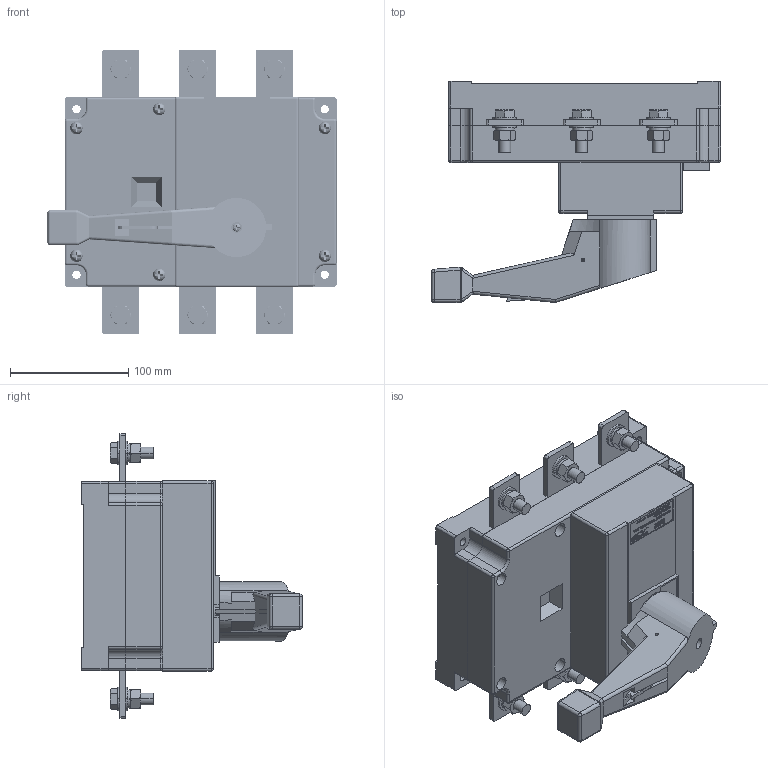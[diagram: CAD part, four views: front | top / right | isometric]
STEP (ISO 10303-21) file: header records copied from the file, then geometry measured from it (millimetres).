
FILE_DESCRIPTION((''),'2;1');
FILE_NAME('2TZD_504_1005_ASM','2016-08-17T',('Administrator'),(''),'PRO/ENGINEER BY PARAMETRIC TECHNOLOGY CORPORATION, 2013050','PRO/ENGINEER BY PARAMETRIC TECHNOLOGY CORPORATION, 2013050','');
FILE_SCHEMA(('CONFIG_CONTROL_DESIGN'));
Products named in the file (35): 8TZD_022_1019; 8TZD_557_1061; 0GB-T5783-011; 2GB-T6172-1-002; 5TZD_022_1017_ASM; 8TZD_742_1150; 8TZD_235_1019; 8TZD_557_1059; 8TZD_557_1060; 8TZD_285_1011; 5TZD_558_1066_ASM; 8TZD_060_1004; 8TZD_268_1007; 8TZD_201_1018; 8TZD_288_1068; 8TZD_005_1020; 8TZD_235_1020; GB818-M6X30; 3GB71-002; 5TZD_005_1007_ASM; 8TZD_860_1061; 3GB818-076; 2GB6172-2-003; 6TZD_250_1009_ASM; GB-T97_1-10; GB-T93-10; 0GB-T5783-001; 2GB-T6170-003; 8TZD_100_1057; 8TZD_253_1085; 8TZD_140_1009; 6GB-879-2-002; 5TZD_253_1018_ASM; 3GB845-011; 2TZD_504_1005_ASM
Assembly tree (110 placements, depth 4):
  2TZD_504_1005_ASM
    6TZD_250_1009_ASM
      5TZD_022_1017_ASM
        8TZD_022_1019
        8TZD_557_1061  x6
        0GB-T5783-011  x12
        2GB-T6172-1-002  x12
      8TZD_742_1150  x2
      5TZD_558_1066_ASM
        8TZD_235_1019
        8TZD_557_1059  x3
        8TZD_557_1060  x3
        8TZD_285_1011  x6
      5TZD_005_1007_ASM
        8TZD_060_1004
        8TZD_268_1007
        8TZD_201_1018
        8TZD_288_1068
        8TZD_005_1020
        8TZD_235_1020
        GB818-M6X30  x4
        3GB71-002
      8TZD_860_1061
      3GB818-076  x6
      2GB6172-2-003  x6
    GB-T97_1-10  x12
    GB-T93-10  x6
    0GB-T5783-001  x6
    2GB-T6170-003  x6
    8TZD_100_1057
    5TZD_253_1018_ASM
      8TZD_253_1085
      8TZD_140_1009
      6GB-879-2-002
    3GB845-011
Bounding box: 244.51 x 186.8 x 241 mm (x, y, z)
Volume: 1689349.4 mm3; surface area: 656193.7 mm2
Topology: 143 solids, 204 shells, 7651 faces, 20668 edges, 13508 vertices
Faces by surface type: plane 5962, cylinder 908, cone 585, torus 121, sphere 46, bspline 29
Entity records: 187488 total; most frequent: CARTESIAN_POINT 36441, ORIENTED_EDGE 32246, DIRECTION 29020, EDGE_CURVE 16147, VECTOR 14694, LINE 14694, VERTEX_POINT 10691, AXIS2_PLACEMENT_3D 7163
